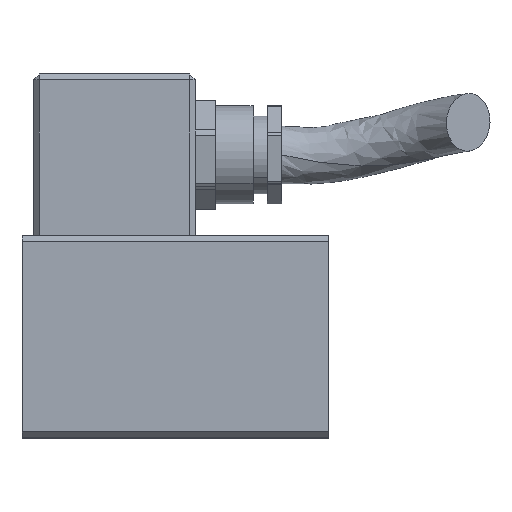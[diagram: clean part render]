
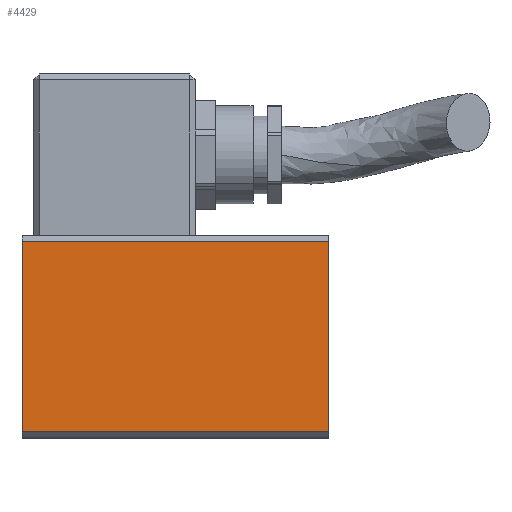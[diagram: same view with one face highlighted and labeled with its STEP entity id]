
A CAD part, top view. The second image highlights one B-rep face of the part: STEP entity #4429.
In plain terms, the highlighted planar face has unit normal (0, 0, 1).
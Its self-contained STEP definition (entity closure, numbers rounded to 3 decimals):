
#248 = VECTOR ( 'NONE', #8677, 1000. ) ;
#367 = VECTOR ( 'NONE', #2465, 1000. ) ;
#376 = DIRECTION ( 'NONE',  ( -1., 0., 0. ) ) ;
#589 = ORIENTED_EDGE ( 'NONE', *, *, #7621, .T. ) ;
#937 = VECTOR ( 'NONE', #7363, 1000. ) ;
#958 = LINE ( 'NONE', #1582, #6297 ) ;
#1229 = VERTEX_POINT ( 'NONE', #7474 ) ;
#1582 = CARTESIAN_POINT ( 'NONE',  ( 53., 16.5, 17.5 ) ) ;
#1675 = EDGE_CURVE ( 'NONE', #7791, #7797, #2795, .T. ) ;
#1988 = ORIENTED_EDGE ( 'NONE', *, *, #1675, .T. ) ;
#2465 = DIRECTION ( 'NONE',  ( 0., -1., 0. ) ) ;
#2623 = EDGE_LOOP ( 'NONE', ( #589, #1988, #8477, #6755 ) ) ;
#2795 = LINE ( 'NONE', #8510, #937 ) ;
#3166 = CARTESIAN_POINT ( 'NONE',  ( 53., 16.5, 17.5 ) ) ;
#3466 = EDGE_CURVE ( 'NONE', #8102, #7797, #7689, .T. ) ;
#3840 = LINE ( 'NONE', #6624, #367 ) ;
#4022 = CARTESIAN_POINT ( 'NONE',  ( 53., -16.5, 17.5 ) ) ;
#4301 = DIRECTION ( 'NONE',  ( -1., 0., 0. ) ) ;
#4429 = ADVANCED_FACE ( 'NONE', ( #8378 ), #5190, .F. ) ;
#4521 = DIRECTION ( 'NONE',  ( 0., 0., -1. ) ) ;
#5190 = PLANE ( 'NONE',  #7333 ) ;
#6112 = CARTESIAN_POINT ( 'NONE',  ( 0., -16.5, 17.5 ) ) ;
#6297 = VECTOR ( 'NONE', #4301, 1000. ) ;
#6624 = CARTESIAN_POINT ( 'NONE',  ( 0., -17.5, 17.5 ) ) ;
#6755 = ORIENTED_EDGE ( 'NONE', *, *, #8467, .T. ) ;
#7333 = AXIS2_PLACEMENT_3D ( 'NONE', #8760, #4521, #376 ) ;
#7363 = DIRECTION ( 'NONE',  ( 1., 0., 0. ) ) ;
#7474 = CARTESIAN_POINT ( 'NONE',  ( 0., 16.5, 17.5 ) ) ;
#7621 = EDGE_CURVE ( 'NONE', #1229, #7791, #3840, .T. ) ;
#7689 = LINE ( 'NONE', #8654, #248 ) ;
#7791 = VERTEX_POINT ( 'NONE', #6112 ) ;
#7797 = VERTEX_POINT ( 'NONE', #4022 ) ;
#8102 = VERTEX_POINT ( 'NONE', #3166 ) ;
#8378 = FACE_OUTER_BOUND ( 'NONE', #2623, .T. ) ;
#8467 = EDGE_CURVE ( 'NONE', #8102, #1229, #958, .T. ) ;
#8477 = ORIENTED_EDGE ( 'NONE', *, *, #3466, .F. ) ;
#8510 = CARTESIAN_POINT ( 'NONE',  ( 53., -16.5, 17.5 ) ) ;
#8654 = CARTESIAN_POINT ( 'NONE',  ( 53., -17.5, 17.5 ) ) ;
#8677 = DIRECTION ( 'NONE',  ( 0., -1., 0. ) ) ;
#8760 = CARTESIAN_POINT ( 'NONE',  ( 53., -17.5, 17.5 ) ) ;
